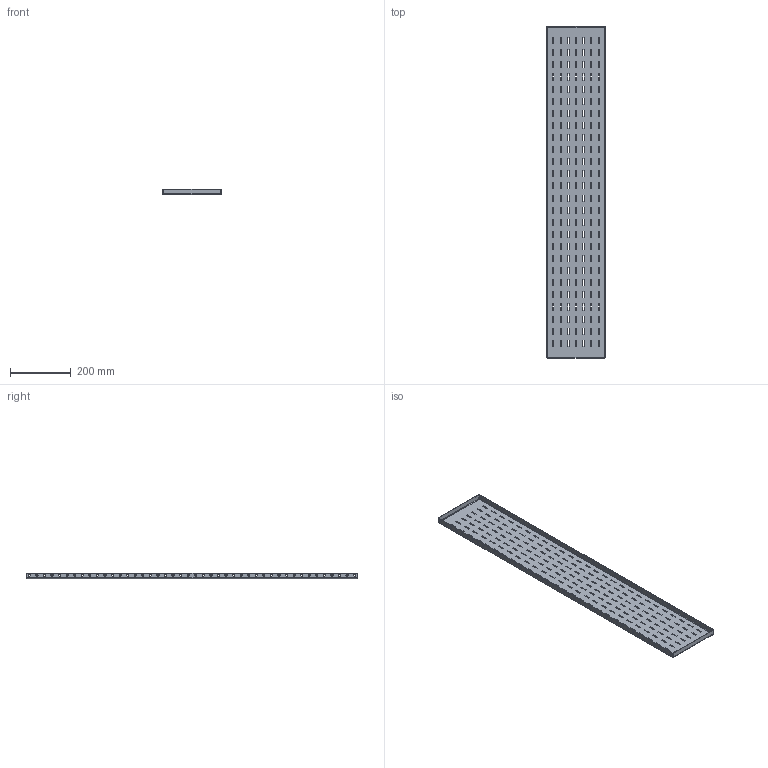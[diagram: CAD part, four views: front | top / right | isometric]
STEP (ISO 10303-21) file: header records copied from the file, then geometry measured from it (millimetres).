
FILE_DESCRIPTION(('STEP AP203'), '1');
FILE_NAME('Êîìïëåêò îãðàæäåíèÿ ñáîðíîé øèíû çàäíèé 2200õ300 ìì OptiBox M 419335 ÊÝÀÇ', '', ('UNSPECIFIED'), ('UNSPECIFIED'), 'C3D Converter', 'C3D Toolkit', '');
FILE_SCHEMA(('CONFIG_CONTROL_DESIGN'));
Length unit declared in the file: millimetre
Bounding box: 192 x 1097 x 19 mm (x, y, z)
Volume: 351528.5 mm3; surface area: 488914.9 mm2
Topology: 1 solids, 1 shells, 854 faces, 2524 edges, 1672 vertices
Faces by surface type: plane 750, cylinder 96, bspline 8
Full cylindrical faces by diameter (mm): 7.3 x88
Entity records: 30160 total; most frequent: CARTESIAN_POINT 6479, ORIENTED_EDGE 4872, DIRECTION 4286, EDGE_CURVE 2436, LINE 2240, VECTOR 2240, VERTEX_POINT 1672, EDGE_LOOP 1482
